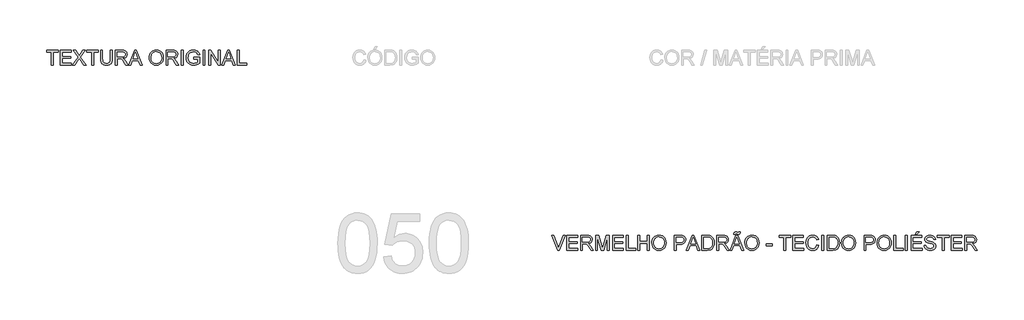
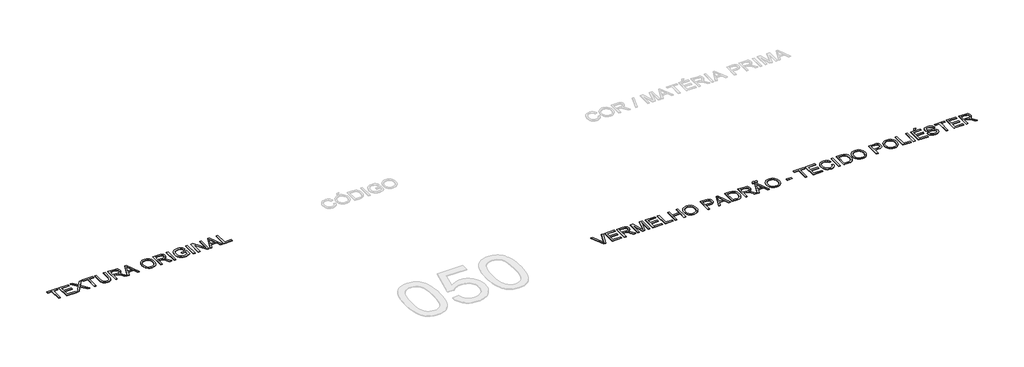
# One storey, part 25 of 39: 2 proxies.
"""IFC4 building model written with IfcOpenShell, lengths in millimetres."""

from ifc_helpers import new_model, si_unit, origin, origin_with_axes, place, context, project, spatial, polyline, outline, extrude, element, save

model = new_model("IFC4")

# Units and contexts
model_context = context("Model", 3, world=origin())
ifc_project = project(units=[si_unit("LENGTHUNIT", "METRE", prefix="MILLI")], contexts=[model_context])

# Site, building, storey
site = spatial("IfcSite", under=ifc_project)
building = spatial("IfcBuilding", under=site)
storey = spatial("IfcBuildingStorey", under=building, Name="Marelli - Linha PROFIT - Planta Baixa", Elevation=0.0)

# Proxies
placement = place(None, origin())
element("IfcBuildingElementProxy", 1, Name="300mm Arial", ObjectType="300mm Arial", at=placement, inside=storey, context=model_context, shape_type="SweptSolid", body=[
    extrude(outline(polyline([(-31021.6681618, -30780.5663201), (-31021.6681618, -30516.8685059), (-31120.5548421, -30516.8685059), (-31120.5548421, -30479.1973896), (-30885.1103652, -30479.1973896), (-30885.1103652, -30516.8685059), (-30983.9970455, -30516.8685059), (-30983.9970455, -30780.5663201), (-31021.6681618, -30780.5663201)])), origin_with_axes(), (0.0, 0.0, 1.0), 10.0),
    extrude(outline(polyline([(-30842.7303593, -30780.5663201), (-30842.7303593, -30479.1973896), (-30626.1214406, -30479.1973896), (-30626.1214406, -30516.8685059), (-30805.059243, -30516.8685059), (-30805.059243, -30606.3374072), (-30635.5392196, -30606.3374072), (-30635.5392196, -30644.0085235), (-30805.059243, -30644.0085235), (-30805.059243, -30742.8952038), (-30621.412551, -30742.8952038), (-30621.412551, -30780.5663201), (-30842.7303593, -30780.5663201)])), origin_with_axes(), (0.0, 0.0, 1.0), 10.0),
    extrude(outline(polyline([(-30597.8681033, -30780.5663201), (-30481.6909693, -30616.3437974), (-30579.0325452, -30479.1973896), (-30533.8566362, -30479.1973896), (-30479.0422189, -30556.3790322), (-30460.5745427, -30586.4717794), (-30438.9430814, -30555.8639974), (-30384.7172753, -30479.1973896), (-30338.8791787, -30479.1973896), (-30436.2207547, -30616.7852558), (-30320.0436206, -30780.5663201), (-30365.2195296, -30780.5663201), (-30442.6219014, -30671.3789439), (-30458.7351328, -30648.717413), (-30476.4670449, -30673.5862359), (-30552.0300067, -30780.5663201), (-30597.8681033, -30780.5663201)])), origin_with_axes(), (0.0, 0.0, 1.0), 10.0),
    extrude(outline(polyline([(-30207.0302717, -30780.5663201), (-30207.0302717, -30516.8685059), (-30305.916952, -30516.8685059), (-30305.916952, -30479.1973896), (-30070.4724751, -30479.1973896), (-30070.4724751, -30516.8685059), (-30169.3591554, -30516.8685059), (-30169.3591554, -30780.5663201), (-30207.0302717, -30780.5663201)])), origin_with_axes(), (0.0, 0.0, 1.0), 10.0),
    extrude(outline(polyline([(-29830.3191086, -30479.1973896), (-29792.6479923, -30479.1973896), (-29792.6479923, -30653.0584205), (-29795.2047722, -30693.7737604), (-29802.8751118, -30725.1265034), (-29817.2041155, -30749.3147446), (-29839.7368877, -30768.5365788), (-29870.5286107, -30781.0905519), (-29909.6344668, -30785.2752096), (-29947.8849972, -30781.6331779), (-29978.4651881, -30770.7070826), (-30001.3842364, -30752.8740029), (-30016.6513392, -30728.5110178), (-30025.2321867, -30695.8338995), (-30028.0924692, -30653.0584205), (-30028.0924692, -30479.1973896), (-29990.4213529, -30479.1973896), (-29990.4213529, -30651.7340454), (-29988.5635488, -30685.588386), (-29982.9901366, -30709.1604248), (-29972.8917758, -30725.4851883), (-29957.4591261, -30737.597703), (-29937.335981, -30745.1024957), (-29913.1661339, -30747.6040933), (-29874.8512241, -30742.6560805), (-29860.5084248, -30736.4710644), (-29849.375396, -30727.812042), (-29841.0382702, -30715.6351479), (-29835.0831804, -30698.8965171), (-29830.3191086, -30651.7340454), (-29830.3191086, -30479.1973896)])), origin_with_axes(), (0.0, 0.0, 1.0), 10.0),
    extrude(outline(polyline([(-29726.7235388, -30780.5663201), (-29726.7235388, -30479.1973896), (-29596.8611945, -30479.1973896), (-29561.9583902, -30481.2299376), (-29536.5653355, -30487.3275817), (-29518.0056888, -30498.5847708), (-29503.6031087, -30516.0959537), (-29494.3600736, -30537.8101885), (-29491.2790618, -30561.6765329), (-29496.3834245, -30591.3646099), (-29511.6965126, -30615.9759154), (-29523.2962917, -30626.0052983), (-29537.6781785, -30634.0205273), (-29574.7882748, -30644.0085235), (-29553.3775426, -30660.1217548), (-29522.843337, -30698.8965171), (-29472.5906565, -30780.5663201), (-29516.3686139, -30780.5663201), (-29555.5848346, -30718.0999573), (-29583.9117482, -30676.750021), (-29603.8141642, -30657.2154871), (-29621.7300173, -30650.0417882), (-29643.5822079, -30648.717413), (-29689.0524225, -30648.717413), (-29689.0524225, -30780.5663201), (-29726.7235388, -30780.5663201)]), holes=[polyline([(-29689.0524225, -30611.0462967), (-29604.7338692, -30611.0462967), (-29580.5180368, -30609.7127245), (-29561.7284639, -30605.7120078), (-29547.5834012, -30598.7774322), (-29537.3010994, -30588.6422832), (-29531.0379085, -30576.3826157), (-29528.9501782, -30563.0744845), (-29532.9325008, -30544.6987789), (-29544.8794685, -30529.8915286), (-29565.434875, -30520.1242616), (-29595.2425137, -30516.8685059), (-29689.0524225, -30516.8685059), (-29689.0524225, -30611.0462967)])]), origin_with_axes(), (0.0, 0.0, 1.0), 10.0),
    extrude(outline(polyline([(-29460.4505507, -30780.5663201), (-29340.1531382, -30479.1973896), (-29308.0738283, -30479.1973896), (-29187.7764158, -30780.5663201), (-29227.5812477, -30780.5663201), (-29262.0885789, -30686.3885293), (-29386.211964, -30686.3885293), (-29420.6457188, -30780.5663201), (-29460.4505507, -30780.5663201)]), holes=[polyline([(-29372.379601, -30648.717413), (-29275.8473655, -30648.717413), (-29302.9970567, -30574.6259792), (-29324.1134832, -30516.8685059), (-29342.875465, -30568.1512561), (-29372.379601, -30648.717413)])]), origin_with_axes(), (0.0, 0.0, 1.0), 10.0),
    extrude(outline(polyline([(-29043.9345557, -30633.8549804), (-29041.4237611, -30598.5061192), (-29033.8913772, -30567.213157), (-29021.3374042, -30539.9760937), (-29003.7618418, -30516.7949295), (-28982.2177525, -30498.2858666), (-28957.7581983, -30485.0651074), (-28930.3831794, -30477.1326519), (-28900.0926956, -30474.4885001), (-28860.5637752, -30479.454907), (-28825.118345, -30494.3541278), (-28795.6877854, -30518.1376988), (-28774.2034768, -30549.7571563), (-28761.0700896, -30587.68579), (-28756.6922939, -30630.3968896), (-28761.3000159, -30673.6782064), (-28775.1231818, -30712.140269), (-28797.3984366, -30743.8149087), (-28827.3624252, -30766.733957), (-28862.5043527, -30780.6398965), (-28900.3134248, -30785.2752096), (-28940.4493505, -30780.1524528), (-28976.0971158, -30764.7841825), (-29005.454099, -30740.5591531), (-29026.7176783, -30708.8661192), (-29039.6303364, -30672.3998164), (-29043.9345557, -30633.8549804)]), holes=[polyline([(-29006.2634394, -30634.2228624), (-29004.3803434, -30659.1974513), (-28998.7310556, -30681.3669401), (-28989.3155757, -30700.7313286), (-28976.133904, -30717.2906169), (-28960.1103438, -30730.5527628), (-28942.1691988, -30740.0257242), (-28922.3104688, -30745.709501), (-28900.534154, -30747.6040933), (-28878.3853586, -30745.6911069), (-28858.2921039, -30739.9521478), (-28840.2543898, -30730.3872159), (-28824.2722164, -30716.9963113), (-28811.1871137, -30700.0875351), (-28801.8406117, -30679.9689885), (-28796.2327106, -30656.6406715), (-28794.3634102, -30630.102584), (-28797.5639835, -30596.7540812), (-28807.1657036, -30567.9305269), (-28822.9202501, -30544.358488), (-28844.5793025, -30526.7645316), (-28870.7081212, -30515.8108452), (-28899.8719664, -30512.1596164), (-28920.8918239, -30513.9185522), (-28940.3941682, -30519.1953595), (-28958.3789992, -30527.9900385), (-28974.846317, -30540.302589), (-28988.5913081, -30556.7262208), (-28998.4091588, -30577.8541437), (-29004.2998693, -30603.6863575), (-29006.2634394, -30634.2228624)])]), origin_with_axes(), (0.0, 0.0, 1.0), 10.0),
    extrude(outline(polyline([(-28704.894509, -30780.5663201), (-28704.894509, -30479.1973896), (-28575.0321647, -30479.1973896), (-28540.1293604, -30481.2299376), (-28514.7363057, -30487.3275817), (-28496.176659, -30498.5847708), (-28481.7740789, -30516.0959537), (-28472.5310438, -30537.8101885), (-28469.450032, -30561.6765329), (-28474.5543947, -30591.3646099), (-28489.8674828, -30615.9759154), (-28501.4672619, -30626.0052983), (-28515.8491487, -30634.0205273), (-28552.959245, -30644.0085235), (-28531.5485128, -30660.1217548), (-28501.0143072, -30698.8965171), (-28450.7616267, -30780.5663201), (-28494.5395841, -30780.5663201), (-28533.7558048, -30718.0999573), (-28562.0827184, -30676.750021), (-28581.9851344, -30657.2154871), (-28599.9009875, -30650.0417882), (-28621.753178, -30648.717413), (-28667.2233927, -30648.717413), (-28667.2233927, -30780.5663201), (-28704.894509, -30780.5663201)]), holes=[polyline([(-28667.2233927, -30611.0462967), (-28582.9048394, -30611.0462967), (-28558.689007, -30609.7127245), (-28539.8994341, -30605.7120078), (-28525.7543714, -30598.7774322), (-28515.4720696, -30588.6422832), (-28509.2088787, -30576.3826157), (-28507.1211484, -30563.0744845), (-28511.1034709, -30544.6987789), (-28523.0504387, -30529.8915286), (-28543.6058452, -30520.1242616), (-28573.4134839, -30516.8685059), (-28667.2233927, -30516.8685059), (-28667.2233927, -30611.0462967)])]), origin_with_axes(), (0.0, 0.0, 1.0), 10.0),
    extrude(outline(polyline([(-28398.816689, -30780.5663201), (-28398.816689, -30479.1973896), (-28361.1455727, -30479.1973896), (-28361.1455727, -30780.5663201), (-28398.816689, -30780.5663201)])), origin_with_axes(), (0.0, 0.0, 1.0), 10.0),
    extrude(outline(polyline([(-28144.5366539, -30662.8440816), (-28144.5366539, -30625.1729653), (-28022.1055259, -30625.1729653), (-28022.1055259, -30737.8184322), (-28051.8579823, -30758.5117945), (-28082.5485377, -30773.355833), (-28114.1036159, -30782.2953654), (-28146.4496403, -30785.2752096), (-28188.7100845, -30780.5387289), (-28226.9054326, -30766.3292869), (-28258.6352547, -30743.1435241), (-28281.4991207, -30711.4780814), (-28295.3222867, -30673.4942654), (-28299.9300087, -30631.3533828), (-28295.3406808, -30588.9089976), (-28281.5726971, -30549.4260625), (-28259.1962748, -30516.3074859), (-28228.7816308, -30492.9561762), (-28191.7359139, -30479.1054191), (-28149.4662726, -30474.4885001), (-28118.4354263, -30477.1648416), (-28090.531577, -30485.1938661), (-28067.0331146, -30497.9961596), (-28049.218429, -30514.9923077), (-28036.0390565, -30537.0008481), (-28026.4465335, -30564.8403181), (-28061.1745938, -30574.6259792), (-28068.9277068, -30554.7695485), (-28078.354683, -30539.7875542), (-28090.8258826, -30528.493577), (-28107.7116662, -30519.7011973), (-28127.8440084, -30514.0450116), (-28150.0548838, -30512.1596164), (-28176.0549438, -30514.1921644), (-28198.2842134, -30520.2898085), (-28216.6599191, -30529.6891935), (-28231.0992874, -30541.6269642), (-28250.4866685, -30570.6528536), (-28259.3158364, -30599.0901318), (-28262.2588924, -30629.8082784), (-28258.7180282, -30665.8331228), (-28248.0954355, -30695.4752146), (-28230.7130113, -30718.5230216), (-28206.8926521, -30734.7650117), (-28179.0163939, -30744.3943229), (-28149.4662726, -30747.6040933), (-28123.3742421, -30745.1852692), (-28097.9260051, -30737.9287968), (-28075.8254943, -30727.9316036), (-28059.7766422, -30717.2906169), (-28059.7766422, -30662.8440816), (-28144.5366539, -30662.8440816)])), origin_with_axes(), (0.0, 0.0, 1.0), 10.0),
    extrude(outline(polyline([(-27956.1810724, -30780.5663201), (-27956.1810724, -30479.1973896), (-27918.5099561, -30479.1973896), (-27918.5099561, -30780.5663201), (-27956.1810724, -30780.5663201)])), origin_with_axes(), (0.0, 0.0, 1.0), 10.0),
    extrude(outline(polyline([(-27843.1677235, -30780.5663201), (-27843.1677235, -30479.1973896), (-27802.8478568, -30479.1973896), (-27645.3943628, -30717.9528045), (-27645.3943628, -30479.1973896), (-27607.7232465, -30479.1973896), (-27607.7232465, -30780.5663201), (-27648.0431132, -30780.5663201), (-27805.4966072, -30541.7373288), (-27805.4966072, -30780.5663201), (-27843.1677235, -30780.5663201)])), origin_with_axes(), (0.0, 0.0, 1.0), 10.0),
    extrude(outline(polyline([(-27576.8947353, -30780.5663201), (-27456.5973229, -30479.1973896), (-27424.5180129, -30479.1973896), (-27304.2206005, -30780.5663201), (-27344.0254324, -30780.5663201), (-27378.5327635, -30686.3885293), (-27502.6561487, -30686.3885293), (-27537.0899035, -30780.5663201), (-27576.8947353, -30780.5663201)]), holes=[polyline([(-27488.8237857, -30648.717413), (-27392.2915502, -30648.717413), (-27419.4412414, -30574.6259792), (-27440.5576679, -30516.8685059), (-27459.3196497, -30568.1512561), (-27488.8237857, -30648.717413)])]), origin_with_axes(), (0.0, 0.0, 1.0), 10.0),
    extrude(outline(polyline([(-27263.9743102, -30780.5663201), (-27263.9743102, -30479.1973896), (-27226.3031939, -30479.1973896), (-27226.3031939, -30742.8952038), (-27075.6187287, -30742.8952038), (-27075.6187287, -30780.5663201), (-27263.9743102, -30780.5663201)])), origin_with_axes(), (0.0, 0.0, 1.0), 10.0),
])
element("IfcBuildingElementProxy", 2, Name="300mm Arial", ObjectType="300mm Arial", at=placement, inside=storey, context=model_context, shape_type="SweptSolid", body=[
    extrude(outline(polyline([(-20789.4399329, -34530.5663201), (-20909.3694633, -34229.1973896), (-20869.0495966, -34229.1973896), (-20788.7777453, -34446.3213432), (-20772.5173611, -34495.2496485), (-20756.4777061, -34446.3213432), (-20675.9851255, -34229.1973896), (-20635.6652589, -34229.1973896), (-20750.5180178, -34530.5663201), (-20789.4399329, -34530.5663201)])), origin_with_axes(), (0.0, 0.0, 1.0), 10.0),
    extrude(outline(polyline([(-20600.6428929, -34530.5663201), (-20600.6428929, -34229.1973896), (-20384.0339742, -34229.1973896), (-20384.0339742, -34266.8685059), (-20562.9717766, -34266.8685059), (-20562.9717766, -34356.3374072), (-20393.4517532, -34356.3374072), (-20393.4517532, -34394.0085235), (-20562.9717766, -34394.0085235), (-20562.9717766, -34492.8952038), (-20379.3250846, -34492.8952038), (-20379.3250846, -34530.5663201), (-20600.6428929, -34530.5663201)])), origin_with_axes(), (0.0, 0.0, 1.0), 10.0),
    extrude(outline(polyline([(-20322.8184102, -34530.5663201), (-20322.8184102, -34229.1973896), (-20192.9560659, -34229.1973896), (-20158.0532616, -34231.2299376), (-20132.6602069, -34237.3275817), (-20114.1005602, -34248.5847708), (-20099.6979801, -34266.0959537), (-20090.454945, -34287.8101885), (-20087.3739333, -34311.6765329), (-20092.4782959, -34341.3646099), (-20107.791384, -34365.9759154), (-20119.3911631, -34376.0052983), (-20133.7730499, -34384.0205273), (-20170.8831462, -34394.0085235), (-20149.472414, -34410.1217548), (-20118.9382084, -34448.8965171), (-20068.6855279, -34530.5663201), (-20112.4634853, -34530.5663201), (-20151.679706, -34468.0999573), (-20180.0066196, -34426.750021), (-20199.9090356, -34407.2154871), (-20217.8248887, -34400.0417882), (-20239.6770793, -34398.717413), (-20285.1472939, -34398.717413), (-20285.1472939, -34530.5663201), (-20322.8184102, -34530.5663201)]), holes=[polyline([(-20285.1472939, -34361.0462967), (-20200.8287406, -34361.0462967), (-20176.6129082, -34359.7127245), (-20157.8233353, -34355.7120078), (-20143.6782726, -34348.7774322), (-20133.3959709, -34338.6422832), (-20127.1327799, -34326.3826157), (-20125.0450496, -34313.0744845), (-20129.0273722, -34294.6987789), (-20140.97434, -34279.8915286), (-20161.5297464, -34270.1242616), (-20191.3373851, -34266.8685059), (-20285.1472939, -34266.8685059), (-20285.1472939, -34361.0462967)])]), origin_with_axes(), (0.0, 0.0, 1.0), 10.0),
    extrude(outline(polyline([(-20021.4494797, -34530.5663201), (-20021.4494797, -34229.1973896), (-19956.6286722, -34229.1973896), (-19894.9716498, -34441.6124536), (-19882.5372383, -34485.9790223), (-19869.0727573, -34437.9336337), (-19808.4458045, -34229.1973896), (-19743.624997, -34229.1973896), (-19743.624997, -34530.5663201), (-19781.2961133, -34530.5663201), (-19781.2961133, -34266.8685059), (-19857.0062279, -34530.5663201), (-19908.0682488, -34530.5663201), (-19983.7783634, -34266.8685059), (-19983.7783634, -34530.5663201), (-20021.4494797, -34530.5663201)])), origin_with_axes(), (0.0, 0.0, 1.0), 10.0),
    extrude(outline(polyline([(-19677.7005434, -34530.5663201), (-19677.7005434, -34229.1973896), (-19461.0916247, -34229.1973896), (-19461.0916247, -34266.8685059), (-19640.0294271, -34266.8685059), (-19640.0294271, -34356.3374072), (-19470.5094037, -34356.3374072), (-19470.5094037, -34394.0085235), (-19640.0294271, -34394.0085235), (-19640.0294271, -34492.8952038), (-19456.3827351, -34492.8952038), (-19456.3827351, -34530.5663201), (-19677.7005434, -34530.5663201)])), origin_with_axes(), (0.0, 0.0, 1.0), 10.0),
    extrude(outline(polyline([(-19399.8760607, -34530.5663201), (-19399.8760607, -34229.1973896), (-19362.2049444, -34229.1973896), (-19362.2049444, -34492.8952038), (-19211.5204791, -34492.8952038), (-19211.5204791, -34530.5663201), (-19399.8760607, -34530.5663201)])), origin_with_axes(), (0.0, 0.0, 1.0), 10.0),
    extrude(outline(polyline([(-19169.1404733, -34530.5663201), (-19169.1404733, -34229.1973896), (-19131.469357, -34229.1973896), (-19131.469357, -34351.6285176), (-18971.3671127, -34351.6285176), (-18971.3671127, -34229.1973896), (-18933.6959964, -34229.1973896), (-18933.6959964, -34530.5663201), (-18971.3671127, -34530.5663201), (-18971.3671127, -34389.2996339), (-19131.469357, -34389.2996339), (-19131.469357, -34530.5663201), (-19169.1404733, -34530.5663201)])), origin_with_axes(), (0.0, 0.0, 1.0), 10.0),
    extrude(outline(polyline([(-18881.8982115, -34383.8549804), (-18879.3874168, -34348.5061192), (-18871.855033, -34317.213157), (-18859.3010599, -34289.9760937), (-18841.7254976, -34266.7949295), (-18820.1814082, -34248.2858666), (-18795.7218541, -34235.0651074), (-18768.3468351, -34227.1326519), (-18738.0563513, -34224.4885001), (-18698.527431, -34229.454907), (-18663.0820007, -34244.3541278), (-18633.6514411, -34268.1376988), (-18612.1671326, -34299.7571563), (-18599.0337454, -34337.68579), (-18594.6559496, -34380.3968896), (-18599.2636716, -34423.6782064), (-18613.0868376, -34462.140269), (-18635.3620924, -34493.8149087), (-18665.3260809, -34516.733957), (-18700.4680085, -34530.6398965), (-18738.2770805, -34535.2752096), (-18778.4130062, -34530.1524528), (-18814.0607716, -34514.7841825), (-18843.4177548, -34490.5591531), (-18864.6813341, -34458.8661192), (-18877.5939921, -34422.3998164), (-18881.8982115, -34383.8549804)]), holes=[polyline([(-18844.2270952, -34384.2228624), (-18842.3439992, -34409.1974513), (-18836.6947113, -34431.3669401), (-18827.2792315, -34450.7313286), (-18814.0975597, -34467.2906169), (-18798.0739996, -34480.5527628), (-18780.1328545, -34490.0257242), (-18760.2741246, -34495.709501), (-18738.4978097, -34497.6040933), (-18716.3490144, -34495.6911069), (-18696.2557596, -34489.9521478), (-18678.2180456, -34480.3872159), (-18662.2358721, -34466.9963113), (-18649.1507694, -34450.0875351), (-18639.8042675, -34429.9689885), (-18634.1963663, -34406.6406715), (-18632.3270659, -34380.102584), (-18635.5276393, -34346.7540812), (-18645.1293594, -34317.9305269), (-18660.8839058, -34294.358488), (-18682.5429583, -34276.7645316), (-18708.671777, -34265.8108452), (-18737.8356221, -34262.1596164), (-18758.8554796, -34263.9185522), (-18778.3578239, -34269.1953595), (-18796.342655, -34277.9900385), (-18812.8099728, -34290.302589), (-18826.5549638, -34306.7262208), (-18836.3728146, -34327.8541437), (-18842.263525, -34353.6863575), (-18844.2270952, -34384.2228624)])]), origin_with_axes(), (0.0, 0.0, 1.0), 10.0),
    extrude(outline(polyline([(-18425.1359262, -34530.5663201), (-18425.1359262, -34229.1973896), (-18313.4469525, -34229.1973896), (-18268.4181963, -34232.0668692), (-18248.3410364, -34237.4287493), (-18231.8139378, -34246.1567496), (-18218.5058066, -34258.6463433), (-18208.0855491, -34275.2930036), (-18201.3533086, -34294.9287051), (-18199.1092284, -34316.3854225), (-18200.6244424, -34334.8852883), (-18205.1700843, -34351.9044291), (-18212.7461541, -34367.4428449), (-18223.3526519, -34381.5005356), (-18237.9138811, -34393.1531978), (-18257.3541453, -34401.476528), (-18281.6734444, -34406.470526), (-18310.8717785, -34408.1351921), (-18387.4648099, -34408.1351921), (-18387.4648099, -34530.5663201), (-18425.1359262, -34530.5663201)]), holes=[polyline([(-18387.4648099, -34370.4640758), (-18308.6644866, -34370.4640758), (-18275.2608014, -34367.005985), (-18253.1878817, -34356.6317127), (-18240.882229, -34339.9850525), (-18236.7803447, -34317.7097977), (-18239.1991688, -34300.7872259), (-18246.4556412, -34286.5134045), (-18257.6484509, -34275.7712502), (-18271.8762871, -34269.4436799), (-18309.5474034, -34266.8685059), (-18387.4648099, -34266.8685059), (-18387.4648099, -34370.4640758)])]), origin_with_axes(), (0.0, 0.0, 1.0), 10.0),
    extrude(outline(polyline([(-18182.4073858, -34530.5663201), (-18062.1099734, -34229.1973896), (-18030.0306634, -34229.1973896), (-17909.733251, -34530.5663201), (-17949.5380829, -34530.5663201), (-17984.045414, -34436.3885293), (-18108.1687992, -34436.3885293), (-18142.602554, -34530.5663201), (-18182.4073858, -34530.5663201)]), holes=[polyline([(-18094.3364362, -34398.717413), (-17997.8042007, -34398.717413), (-18024.9538919, -34324.6259792), (-18046.0703184, -34266.8685059), (-18064.8323002, -34318.1512561), (-18094.3364362, -34398.717413)])]), origin_with_axes(), (0.0, 0.0, 1.0), 10.0),
    extrude(outline(polyline([(-17869.4869607, -34530.5663201), (-17869.4869607, -34229.1973896), (-17765.5235089, -34229.1973896), (-17711.7391612, -34233.5383972), (-17687.7164669, -34241.9077126), (-17667.446169, -34255.0962821), (-17646.605654, -34278.0521186), (-17631.7616155, -34306.5997614), (-17622.8772653, -34340.1873876), (-17619.9158152, -34378.2631741), (-17621.9207721, -34410.6091985), (-17627.9356427, -34439.0740679), (-17637.0959044, -34463.3082943), (-17648.5370344, -34482.9623899), (-17661.7072099, -34498.477813), (-17676.0546077, -34510.2960221), (-17692.526524, -34519.0608107), (-17712.070255, -34525.4159721), (-17760.5203138, -34530.5663201), (-17869.4869607, -34530.5663201)]), holes=[polyline([(-17831.8158444, -34492.8952038), (-17765.1556269, -34492.8952038), (-17737.5828714, -34491.5340404), (-17716.6687799, -34487.4505502), (-17700.8866423, -34480.8838566), (-17688.7097483, -34472.0730828), (-17675.6223463, -34455.7667134), (-17665.7907, -34434.6594839), (-17659.6378736, -34408.6594239), (-17657.5869315, -34377.6745629), (-17661.6060423, -34336.6189322), (-17673.6633747, -34306.3054558), (-17691.4780603, -34285.4833349), (-17712.7692308, -34272.9017706), (-17734.4374803, -34268.3768221), (-17766.1856965, -34266.8685059), (-17831.8158444, -34266.8685059), (-17831.8158444, -34492.8952038)])]), origin_with_axes(), (0.0, 0.0, 1.0), 10.0),
    extrude(outline(polyline([(-17568.1180303, -34530.5663201), (-17568.1180303, -34229.1973896), (-17438.255686, -34229.1973896), (-17403.3528817, -34231.2299376), (-17377.959827, -34237.3275817), (-17359.4001803, -34248.5847708), (-17344.9976002, -34266.0959537), (-17335.7545651, -34287.8101885), (-17332.6735534, -34311.6765329), (-17337.7779161, -34341.3646099), (-17353.0910041, -34365.9759154), (-17364.6907833, -34376.0052983), (-17379.07267, -34384.0205273), (-17416.1827663, -34394.0085235), (-17394.7720342, -34410.1217548), (-17364.2378286, -34448.8965171), (-17313.985148, -34530.5663201), (-17357.7631054, -34530.5663201), (-17396.9793261, -34468.0999573), (-17425.3062398, -34426.750021), (-17445.2086557, -34407.2154871), (-17463.1245089, -34400.0417882), (-17484.9766994, -34398.717413), (-17530.446914, -34398.717413), (-17530.446914, -34530.5663201), (-17568.1180303, -34530.5663201)]), holes=[polyline([(-17530.446914, -34361.0462967), (-17446.1283607, -34361.0462967), (-17421.9125284, -34359.7127245), (-17403.1229554, -34355.7120078), (-17388.9778927, -34348.7774322), (-17378.695591, -34338.6422832), (-17372.4324, -34326.3826157), (-17370.3446697, -34313.0744845), (-17374.3269923, -34294.6987789), (-17386.2739601, -34279.8915286), (-17406.8293666, -34270.1242616), (-17436.6370052, -34266.8685059), (-17530.446914, -34266.8685059), (-17530.446914, -34361.0462967)])]), origin_with_axes(), (0.0, 0.0, 1.0), 10.0),
    extrude(outline(polyline([(-17224.369094, -34210.3618315), (-17221.5180085, -34187.2036599), (-17212.6704465, -34169.2326244), (-17199.3347242, -34157.6995239), (-17182.7248521, -34153.855157), (-17168.8189127, -34156.8901835), (-17152.5585285, -34165.9952628), (-17137.3282139, -34172.6907152), (-17129.3451746, -34168.9015306), (-17125.4824137, -34153.855157), (-17092.5201869, -34153.855157), (-17095.8035337, -34178.5768271), (-17104.4763518, -34196.2351629), (-17117.3798127, -34206.8301643), (-17133.3550884, -34210.3618315), (-17147.3529983, -34207.4923519), (-17163.15353, -34198.8839132), (-17179.0460322, -34191.5262733), (-17188.0223529, -34196.3087393), (-17191.4068672, -34210.3618315), (-17224.369094, -34210.3618315)])), origin_with_axes(), (0.0, 0.0, 1.0), 10.0),
    extrude(outline(polyline([(-17301.8450422, -34530.5663201), (-17181.5476298, -34229.1973896), (-17149.4683198, -34229.1973896), (-17029.1709074, -34530.5663201), (-17068.9757392, -34530.5663201), (-17103.4830704, -34436.3885293), (-17227.6064556, -34436.3885293), (-17262.0402103, -34530.5663201), (-17301.8450422, -34530.5663201)]), holes=[polyline([(-17213.7740925, -34398.717413), (-17117.241857, -34398.717413), (-17144.3915482, -34324.6259792), (-17165.5079748, -34266.8685059), (-17184.2699565, -34318.1512561), (-17213.7740925, -34398.717413)])]), origin_with_axes(), (0.0, 0.0, 1.0), 10.0),
    extrude(outline(polyline([(-17003.0512857, -34383.8549804), (-17000.5404911, -34348.5061192), (-16993.0081072, -34317.213157), (-16980.4541341, -34289.9760937), (-16962.8785718, -34266.7949295), (-16941.3344825, -34248.2858666), (-16916.8749283, -34235.0651074), (-16889.4999094, -34227.1326519), (-16859.2094256, -34224.4885001), (-16819.6805052, -34229.454907), (-16784.235075, -34244.3541278), (-16754.8045153, -34268.1376988), (-16733.3202068, -34299.7571563), (-16720.1868196, -34337.68579), (-16715.8090239, -34380.3968896), (-16720.4167458, -34423.6782064), (-16734.2399118, -34462.140269), (-16756.5151666, -34493.8149087), (-16786.4791551, -34516.733957), (-16821.6210827, -34530.6398965), (-16859.4301548, -34535.2752096), (-16899.5660805, -34530.1524528), (-16935.2138458, -34514.7841825), (-16964.570829, -34490.5591531), (-16985.8344083, -34458.8661192), (-16998.7470664, -34422.3998164), (-17003.0512857, -34383.8549804)]), holes=[polyline([(-16965.3801694, -34384.2228624), (-16963.4970734, -34409.1974513), (-16957.8477855, -34431.3669401), (-16948.4323057, -34450.7313286), (-16935.250634, -34467.2906169), (-16919.2270738, -34480.5527628), (-16901.2859288, -34490.0257242), (-16881.4271988, -34495.709501), (-16859.650884, -34497.6040933), (-16837.5020886, -34495.6911069), (-16817.4088339, -34489.9521478), (-16799.3711198, -34480.3872159), (-16783.3889464, -34466.9963113), (-16770.3038437, -34450.0875351), (-16760.9573417, -34429.9689885), (-16755.3494406, -34406.6406715), (-16753.4801402, -34380.102584), (-16756.6807135, -34346.7540812), (-16766.2824336, -34317.9305269), (-16782.03698, -34294.358488), (-16803.6960325, -34276.7645316), (-16829.8248512, -34265.8108452), (-16858.9886964, -34262.1596164), (-16880.0085539, -34263.9185522), (-16899.5108982, -34269.1953595), (-16917.4957292, -34277.9900385), (-16933.963047, -34290.302589), (-16947.708038, -34306.7262208), (-16957.5258888, -34327.8541437), (-16963.4165992, -34353.6863575), (-16965.3801694, -34384.2228624)])]), origin_with_axes(), (0.0, 0.0, 1.0), 10.0),
    extrude(outline(polyline([(-16569.8334482, -34441.0974188), (-16569.8334482, -34403.4263025), (-16452.1112097, -34403.4263025), (-16452.1112097, -34441.0974188), (-16569.8334482, -34441.0974188)])), origin_with_axes(), (0.0, 0.0, 1.0), 10.0),
    extrude(outline(polyline([(-16211.9578433, -34530.5663201), (-16211.9578433, -34266.8685059), (-16310.8445236, -34266.8685059), (-16310.8445236, -34229.1973896), (-16075.4000467, -34229.1973896), (-16075.4000467, -34266.8685059), (-16174.286727, -34266.8685059), (-16174.286727, -34530.5663201), (-16211.9578433, -34530.5663201)])), origin_with_axes(), (0.0, 0.0, 1.0), 10.0),
    extrude(outline(polyline([(-16033.0200408, -34530.5663201), (-16033.0200408, -34229.1973896), (-15816.4111221, -34229.1973896), (-15816.4111221, -34266.8685059), (-15995.3489245, -34266.8685059), (-15995.3489245, -34356.3374072), (-15825.8289011, -34356.3374072), (-15825.8289011, -34394.0085235), (-15995.3489245, -34394.0085235), (-15995.3489245, -34492.8952038), (-15811.7022325, -34492.8952038), (-15811.7022325, -34530.5663201), (-16033.0200408, -34530.5663201)])), origin_with_axes(), (0.0, 0.0, 1.0), 10.0),
    extrude(outline(polyline([(-15543.2955288, -34423.4390831), (-15505.6244125, -34433.1511677), (-15513.0786215, -34456.5783531), (-15523.0068368, -34477.0486868), (-15535.4090586, -34494.5621691), (-15550.2852867, -34509.1187997), (-15567.299829, -34520.5622291), (-15586.1169931, -34528.7361071), (-15606.7367789, -34533.640434), (-15629.1591865, -34535.2752096), (-15672.8543705, -34530.3271968), (-15707.5548397, -34515.4831583), (-15734.1527079, -34491.2581289), (-15753.5400891, -34458.1671434), (-15765.3766923, -34419.2636224), (-15769.3222267, -34377.6009865), (-15764.8616575, -34333.6574821), (-15751.4799499, -34295.7104543), (-15729.8760797, -34264.9647166), (-15700.7490228, -34242.6250824), (-15666.2049034, -34229.0226457), (-15628.3498461, -34224.4885001), (-15587.0458951, -34230.3562179), (-15569.0771589, -34237.6908652), (-15552.8972489, -34247.9593714), (-15538.7728796, -34260.8904235), (-15526.9707653, -34276.2127086), (-15510.3333021, -34314.0309777), (-15548.0044184, -34323.0072984), (-15561.0642292, -34295.5357104), (-15578.906506, -34276.6909552), (-15601.7519779, -34265.7924511), (-15629.8213741, -34262.1596164), (-15662.1765956, -34266.1879242), (-15688.7560697, -34278.2728478), (-15708.9252001, -34297.1451941), (-15722.0493903, -34321.5357704), (-15729.2506803, -34349.1085259), (-15731.6511104, -34377.5274101), (-15728.809222, -34412.3290468), (-15720.2835567, -34442.421794), (-15705.7522179, -34466.6560205), (-15684.8933088, -34483.8820949), (-15659.8865302, -34494.1735937), (-15632.9115829, -34497.6040933), (-15601.4668693, -34492.931992), (-15575.2644742, -34478.9156879), (-15555.4816199, -34455.702334), (-15543.2955288, -34423.4390831)])), origin_with_axes(), (0.0, 0.0, 1.0), 10.0),
    extrude(outline(polyline([(-15449.1177381, -34530.5663201), (-15449.1177381, -34229.1973896), (-15411.4466218, -34229.1973896), (-15411.4466218, -34530.5663201), (-15449.1177381, -34530.5663201)])), origin_with_axes(), (0.0, 0.0, 1.0), 10.0),
    extrude(outline(polyline([(-15336.1043891, -34530.5663201), (-15336.1043891, -34229.1973896), (-15232.1409373, -34229.1973896), (-15178.3565896, -34233.5383972), (-15154.3338953, -34241.9077126), (-15134.0635974, -34255.0962821), (-15113.2230824, -34278.0521186), (-15098.3790439, -34306.5997614), (-15089.4946937, -34340.1873876), (-15086.5332436, -34378.2631741), (-15088.5382005, -34410.6091985), (-15094.5530711, -34439.0740679), (-15103.7133328, -34463.3082943), (-15115.1544628, -34482.9623899), (-15128.3246383, -34498.477813), (-15142.6720361, -34510.2960221), (-15159.1439524, -34519.0608107), (-15178.6876834, -34525.4159721), (-15227.1377422, -34530.5663201), (-15336.1043891, -34530.5663201)]), holes=[polyline([(-15298.4332728, -34492.8952038), (-15231.7730553, -34492.8952038), (-15204.2002998, -34491.5340404), (-15183.2862084, -34487.4505502), (-15167.5040708, -34480.8838566), (-15155.3271767, -34472.0730828), (-15142.2397747, -34455.7667134), (-15132.4081284, -34434.6594839), (-15126.2553021, -34408.6594239), (-15124.2043599, -34377.6745629), (-15128.2234707, -34336.6189322), (-15140.2808031, -34306.3054558), (-15158.0954887, -34285.4833349), (-15179.3866592, -34272.9017706), (-15201.0549087, -34268.3768221), (-15232.8031249, -34266.8685059), (-15298.4332728, -34266.8685059), (-15298.4332728, -34492.8952038)])]), origin_with_axes(), (0.0, 0.0, 1.0), 10.0),
    extrude(outline(polyline([(-15048.8621273, -34383.8549804), (-15046.3513327, -34348.5061192), (-15038.8189488, -34317.213157), (-15026.2649758, -34289.9760937), (-15008.6894134, -34266.7949295), (-14987.1453241, -34248.2858666), (-14962.6857699, -34235.0651074), (-14935.310751, -34227.1326519), (-14905.0202672, -34224.4885001), (-14865.4913468, -34229.454907), (-14830.0459166, -34244.3541278), (-14800.615357, -34268.1376988), (-14779.1310485, -34299.7571563), (-14765.9976612, -34337.68579), (-14761.6198655, -34380.3968896), (-14766.2275875, -34423.6782064), (-14780.0507534, -34462.140269), (-14802.3260082, -34493.8149087), (-14832.2899968, -34516.733957), (-14867.4319243, -34530.6398965), (-14905.2409964, -34535.2752096), (-14945.3769221, -34530.1524528), (-14981.0246874, -34514.7841825), (-15010.3816706, -34490.5591531), (-15031.6452499, -34458.8661192), (-15044.557908, -34422.3998164), (-15048.8621273, -34383.8549804)]), holes=[polyline([(-15011.191011, -34384.2228624), (-15009.307915, -34409.1974513), (-15003.6586272, -34431.3669401), (-14994.2431473, -34450.7313286), (-14981.0614756, -34467.2906169), (-14965.0379155, -34480.5527628), (-14947.0967704, -34490.0257242), (-14927.2380404, -34495.709501), (-14905.4617256, -34497.6040933), (-14883.3129302, -34495.6911069), (-14863.2196755, -34489.9521478), (-14845.1819614, -34480.3872159), (-14829.199788, -34466.9963113), (-14816.1146853, -34450.0875351), (-14806.7681833, -34429.9689885), (-14801.1602822, -34406.6406715), (-14799.2909818, -34380.102584), (-14802.4915551, -34346.7540812), (-14812.0932752, -34317.9305269), (-14827.8478217, -34294.358488), (-14849.5068741, -34276.7645316), (-14875.6356928, -34265.8108452), (-14904.799538, -34262.1596164), (-14925.8193955, -34263.9185522), (-14945.3217398, -34269.1953595), (-14963.3065708, -34277.9900385), (-14979.7738886, -34290.302589), (-14993.5188797, -34306.7262208), (-15003.3367304, -34327.8541437), (-15009.2274409, -34353.6863575), (-15011.191011, -34384.2228624)])]), origin_with_axes(), (0.0, 0.0, 1.0), 10.0),
    extrude(outline(polyline([(-14592.0998421, -34530.5663201), (-14592.0998421, -34229.1973896), (-14480.4108684, -34229.1973896), (-14435.3821122, -34232.0668692), (-14415.3049523, -34237.4287493), (-14398.7778536, -34246.1567496), (-14385.4697225, -34258.6463433), (-14375.0494649, -34275.2930036), (-14368.3172244, -34294.9287051), (-14366.0731443, -34316.3854225), (-14367.5883582, -34334.8852883), (-14372.1340001, -34351.9044291), (-14379.71007, -34367.4428449), (-14390.3165677, -34381.5005356), (-14404.877797, -34393.1531978), (-14424.3180612, -34401.476528), (-14448.6373603, -34406.470526), (-14477.8356944, -34408.1351921), (-14554.4287258, -34408.1351921), (-14554.4287258, -34530.5663201), (-14592.0998421, -34530.5663201)]), holes=[polyline([(-14554.4287258, -34370.4640758), (-14475.6284024, -34370.4640758), (-14442.2247173, -34367.005985), (-14420.1517976, -34356.6317127), (-14407.8461448, -34339.9850525), (-14403.7442606, -34317.7097977), (-14406.1630847, -34300.7872259), (-14413.419557, -34286.5134045), (-14424.6123667, -34275.7712502), (-14438.8402029, -34269.4436799), (-14476.5113192, -34266.8685059), (-14554.4287258, -34266.8685059), (-14554.4287258, -34370.4640758)])]), origin_with_axes(), (0.0, 0.0, 1.0), 10.0),
    extrude(outline(polyline([(-14328.402028, -34383.8549804), (-14325.8912333, -34348.5061192), (-14318.3588495, -34317.213157), (-14305.8048764, -34289.9760937), (-14288.2293141, -34266.7949295), (-14266.6852247, -34248.2858666), (-14242.2256706, -34235.0651074), (-14214.8506516, -34227.1326519), (-14184.5601678, -34224.4885001), (-14145.0312475, -34229.454907), (-14109.5858172, -34244.3541278), (-14080.1552576, -34268.1376988), (-14058.6709491, -34299.7571563), (-14045.5375619, -34337.68579), (-14041.1597661, -34380.3968896), (-14045.7674881, -34423.6782064), (-14059.5906541, -34462.140269), (-14081.8659089, -34493.8149087), (-14111.8298974, -34516.733957), (-14146.971825, -34530.6398965), (-14184.780897, -34535.2752096), (-14224.9168227, -34530.1524528), (-14260.5645881, -34514.7841825), (-14289.9215713, -34490.5591531), (-14311.1851506, -34458.8661192), (-14324.0978086, -34422.3998164), (-14328.402028, -34383.8549804)]), holes=[polyline([(-14290.7309117, -34384.2228624), (-14288.8478157, -34409.1974513), (-14283.1985278, -34431.3669401), (-14273.783048, -34450.7313286), (-14260.6013762, -34467.2906169), (-14244.5778161, -34480.5527628), (-14226.636671, -34490.0257242), (-14206.7779411, -34495.709501), (-14185.0016262, -34497.6040933), (-14162.8528309, -34495.6911069), (-14142.7595761, -34489.9521478), (-14124.7218621, -34480.3872159), (-14108.7396886, -34466.9963113), (-14095.6545859, -34450.0875351), (-14086.308084, -34429.9689885), (-14080.7001828, -34406.6406715), (-14078.8308824, -34380.102584), (-14082.0314558, -34346.7540812), (-14091.6331759, -34317.9305269), (-14107.3877223, -34294.358488), (-14129.0467748, -34276.7645316), (-14155.1755935, -34265.8108452), (-14184.3394386, -34262.1596164), (-14205.3592961, -34263.9185522), (-14224.8616404, -34269.1953595), (-14242.8464715, -34277.9900385), (-14259.3137893, -34290.302589), (-14273.0587803, -34306.7262208), (-14282.8766311, -34327.8541437), (-14288.7673415, -34353.6863575), (-14290.7309117, -34384.2228624)])]), origin_with_axes(), (0.0, 0.0, 1.0), 10.0),
    extrude(outline(polyline([(-13989.3619812, -34530.5663201), (-13989.3619812, -34229.1973896), (-13951.6908649, -34229.1973896), (-13951.6908649, -34492.8952038), (-13801.0063997, -34492.8952038), (-13801.0063997, -34530.5663201), (-13989.3619812, -34530.5663201)])), origin_with_axes(), (0.0, 0.0, 1.0), 10.0),
    extrude(outline(polyline([(-13753.9175043, -34530.5663201), (-13753.9175043, -34229.1973896), (-13716.246388, -34229.1973896), (-13716.246388, -34530.5663201), (-13753.9175043, -34530.5663201)])), origin_with_axes(), (0.0, 0.0, 1.0), 10.0),
    extrude(outline(polyline([(-13640.9041554, -34530.5663201), (-13640.9041554, -34229.1973896), (-13424.2952366, -34229.1973896), (-13424.2952366, -34266.8685059), (-13603.2330391, -34266.8685059), (-13603.2330391, -34356.3374072), (-13433.7130157, -34356.3374072), (-13433.7130157, -34394.0085235), (-13603.2330391, -34394.0085235), (-13603.2330391, -34492.8952038), (-13419.5863471, -34492.8952038), (-13419.5863471, -34530.5663201), (-13640.9041554, -34530.5663201)])), origin_with_axes(), (0.0, 0.0, 1.0), 10.0),
    extrude(outline(polyline([(-13556.1441437, -34210.3618315), (-13527.8908065, -34153.855157), (-13480.8019111, -34153.855157), (-13527.8908065, -34210.3618315), (-13556.1441437, -34210.3618315)])), origin_with_axes(), (0.0, 0.0, 1.0), 10.0),
    extrude(outline(polyline([(-13377.2063412, -34426.9707502), (-13339.5352249, -34426.9707502), (-13335.2126115, -34447.8756446), (-13327.3951191, -34464.6786547), (-13315.1998309, -34478.0143771), (-13297.7438303, -34488.517408), (-13276.4066746, -34495.332422), (-13252.5679213, -34497.6040933), (-13231.5802534, -34495.884245), (-13213.2045478, -34490.7247), (-13198.314524, -34482.5577197), (-13187.7839019, -34471.8155654), (-13181.5207109, -34459.4823215), (-13179.4329806, -34446.5420724), (-13180.9964791, -34433.932917), (-13185.6869745, -34423.0344129), (-13195.2151182, -34413.7361954), (-13211.2915614, -34405.9279001), (-13266.1427669, -34391.5437141), (-13302.1492172, -34382.0247675), (-13325.1878271, -34372.9656733), (-13343.9406118, -34360.2921386), (-13357.2303489, -34344.9330653), (-13365.1490088, -34327.2195472), (-13367.7885622, -34307.4826782), (-13364.5236094, -34285.4189555), (-13354.7287513, -34264.845155), (-13338.6615052, -34247.4075484), (-13316.5793884, -34234.7524077), (-13290.0734907, -34227.054477), (-13260.7349016, -34224.4885001), (-13228.9498972, -34227.1740386), (-13201.1380183, -34235.2306543), (-13178.2925464, -34248.4928003), (-13161.4067629, -34266.7949295), (-13150.7197909, -34288.9966079), (-13146.4707539, -34313.9574013), (-13184.1418702, -34313.9574013), (-13191.0580517, -34291.4798114), (-13205.4790259, -34275.2562154), (-13228.0117981, -34265.4337661), (-13259.2633736, -34262.1596164), (-13291.2507131, -34265.3969779), (-13313.1948741, -34275.1090626), (-13325.8868029, -34289.4012781), (-13330.1174458, -34306.3790322), (-13327.1192076, -34320.8551887), (-13318.1244928, -34332.4986539), (-13296.8609135, -34342.9097143), (-13256.6146232, -34353.541504), (-13215.080746, -34363.6398648), (-13189.9544057, -34372.4506385), (-13168.4792942, -34386.1174547), (-13153.4973, -34402.9848441), (-13144.6957232, -34422.868866), (-13141.7618643, -34445.5855792), (-13145.1371816, -34468.8081301), (-13155.2631335, -34490.6511236), (-13171.7258528, -34509.4498935), (-13194.1114722, -34523.539774), (-13221.0312372, -34532.3413507), (-13251.0963933, -34535.2752096), (-13288.0041545, -34532.1114244), (-13318.3820102, -34522.620069), (-13342.5794484, -34506.764355), (-13360.945957, -34484.5074943), (-13372.736575, -34457.3945912), (-13377.2063412, -34426.9707502)])), origin_with_axes(), (0.0, 0.0, 1.0), 10.0),
    extrude(outline(polyline([(-13009.9129572, -34530.5663201), (-13009.9129572, -34266.8685059), (-13108.7996376, -34266.8685059), (-13108.7996376, -34229.1973896), (-12873.3551606, -34229.1973896), (-12873.3551606, -34266.8685059), (-12972.2418409, -34266.8685059), (-12972.2418409, -34530.5663201), (-13009.9129572, -34530.5663201)])), origin_with_axes(), (0.0, 0.0, 1.0), 10.0),
    extrude(outline(polyline([(-12830.9751548, -34530.5663201), (-12830.9751548, -34229.1973896), (-12614.366236, -34229.1973896), (-12614.366236, -34266.8685059), (-12793.3040385, -34266.8685059), (-12793.3040385, -34356.3374072), (-12623.7840151, -34356.3374072), (-12623.7840151, -34394.0085235), (-12793.3040385, -34394.0085235), (-12793.3040385, -34492.8952038), (-12609.6573465, -34492.8952038), (-12609.6573465, -34530.5663201), (-12830.9751548, -34530.5663201)])), origin_with_axes(), (0.0, 0.0, 1.0), 10.0),
    extrude(outline(polyline([(-12553.150672, -34530.5663201), (-12553.150672, -34229.1973896), (-12423.2883277, -34229.1973896), (-12388.3855234, -34231.2299376), (-12362.9924687, -34237.3275817), (-12344.4328221, -34248.5847708), (-12330.030242, -34266.0959537), (-12320.7872068, -34287.8101885), (-12317.7061951, -34311.6765329), (-12322.8105578, -34341.3646099), (-12338.1236459, -34365.9759154), (-12349.723425, -34376.0052983), (-12364.1053118, -34384.0205273), (-12401.215408, -34394.0085235), (-12379.8046759, -34410.1217548), (-12349.2704703, -34448.8965171), (-12299.0177898, -34530.5663201), (-12342.7957472, -34530.5663201), (-12382.0119679, -34468.0999573), (-12410.3388815, -34426.750021), (-12430.2412974, -34407.2154871), (-12448.1571506, -34400.0417882), (-12470.0093411, -34398.717413), (-12515.4795557, -34398.717413), (-12515.4795557, -34530.5663201), (-12553.150672, -34530.5663201)]), holes=[polyline([(-12515.4795557, -34361.0462967), (-12431.1610024, -34361.0462967), (-12406.9451701, -34359.7127245), (-12388.1555972, -34355.7120078), (-12374.0105345, -34348.7774322), (-12363.7282327, -34338.6422832), (-12357.4650418, -34326.3826157), (-12355.3773114, -34313.0744845), (-12359.359634, -34294.6987789), (-12371.3066018, -34279.8915286), (-12391.8620083, -34270.1242616), (-12421.669647, -34266.8685059), (-12515.4795557, -34266.8685059), (-12515.4795557, -34361.0462967)])]), origin_with_axes(), (0.0, 0.0, 1.0), 10.0),
])

save(model, "model.ifc")
